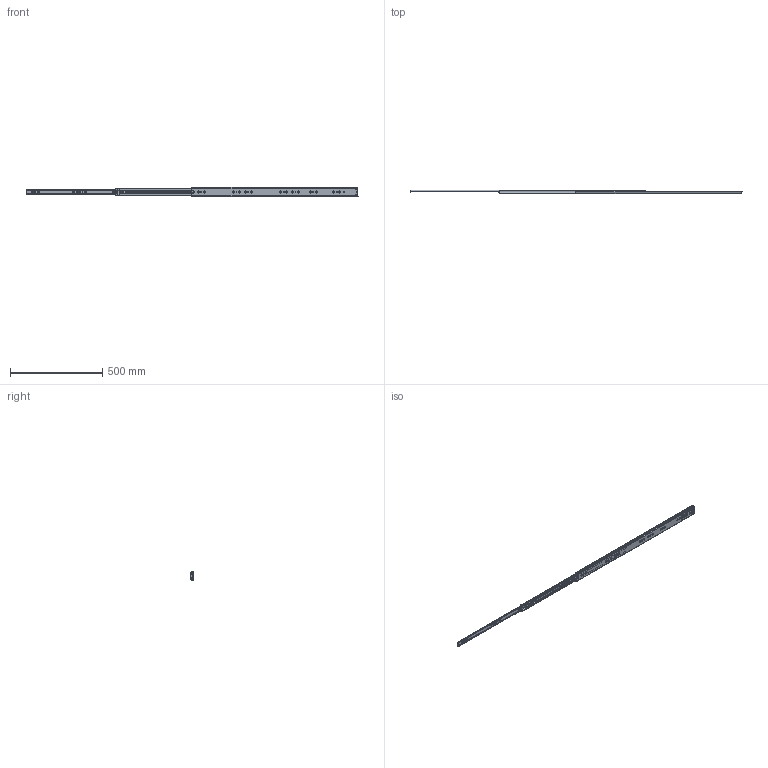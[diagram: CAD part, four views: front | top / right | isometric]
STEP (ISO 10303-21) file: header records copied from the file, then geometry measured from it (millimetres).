
FILE_DESCRIPTION((''),'2;1');
FILE_NAME('1053-HD-900_ASM','2023-11-18T',('jishu015'),(''),'PRO/ENGINEER BY PARAMETRIC TECHNOLOGY CORPORATION, 2010280','PRO/ENGINEER BY PARAMETRIC TECHNOLOGY CORPORATION, 2010280','');
FILE_SCHEMA(('CONFIG_CONTROL_DESIGN'));
Products named in the file (25): 1053-02-18WAIKE11_; MANIFOLD_SOLID_BREP_512_; MANIFOLD_SOLID_BREP_5212_; MANIFOLD_SOLID_BREP_5312_; ADMI29141B9BC7PD_ASM____________ASM; ASM0001____________ASM; 53_ASM____________ASM; 1053-02-18XTPJG-DAZHUJIA2___; 1053-02-18XTPJG-5-6GANZHU12___; ZHONGGUIJIAO-11_____________; 1053-02-18XTPJG-DAZHUJIA12____ASM; 1053-02-18WAIKE11__ASM; 1053-02-18ZHONGGUI11____; 53ZHIDIJIAO12_; 3X6-MAODING___________; 1053-02-18ZHONGGUI11_____ASM; 1053XIAOZHUJIA-14GE11_____; 53-5-6GANZHU12_; 1053XIAOZHUJIA-14GE11______ASM; 1053-02-18NEIGUI12__; 53BACHA12_; XIAOMAODING___________; 3X4MAODING___________; 1053-02-18NEIGUI12___ASM; 1053-HD-900_ASM
Assembly tree (139 placements, depth 6):
  1053-HD-900_ASM
    1053-02-18WAIKE11__ASM
      1053-02-18WAIKE11_
      53_ASM____________ASM
        ASM0001____________ASM
          ADMI29141B9BC7PD_ASM____________ASM
            MANIFOLD_SOLID_BREP_512_
            MANIFOLD_SOLID_BREP_5212_
            MANIFOLD_SOLID_BREP_5312_
      1053-02-18XTPJG-DAZHUJIA12____ASM
        1053-02-18XTPJG-DAZHUJIA2___
        1053-02-18XTPJG-5-6GANZHU12___  x56
        ZHONGGUIJIAO-11_____________  x2
    1053-02-18ZHONGGUI11_____ASM
      1053-02-18ZHONGGUI11____
      53ZHIDIJIAO12_
      3X6-MAODING___________
    1053XIAOZHUJIA-14GE11______ASM
      1053XIAOZHUJIA-14GE11_____
      53-5-6GANZHU12_  x60
    1053-02-18NEIGUI12___ASM
      1053-02-18NEIGUI12__
      53BACHA12_
      XIAOMAODING___________
      3X4MAODING___________
Bounding box: 1802.1 x 19.75 x 53 mm (x, y, z)
Volume: 342087.1 mm3; surface area: 422100.4 mm2
Topology: 131 solids, 131 shells, 4630 faces, 12929 edges, 8072 vertices
Faces by surface type: plane 2021, cylinder 1884, sphere 262, bspline 254, cone 147, torus 60, extrusion 2
Entity records: 162356 total; most frequent: CARTESIAN_POINT 50109, ORIENTED_EDGE 23988, DIRECTION 22691, EDGE_CURVE 11994, AXIS2_PLACEMENT_3D 7741, VERTEX_POINT 7718, VECTOR 7209, LINE 7207
